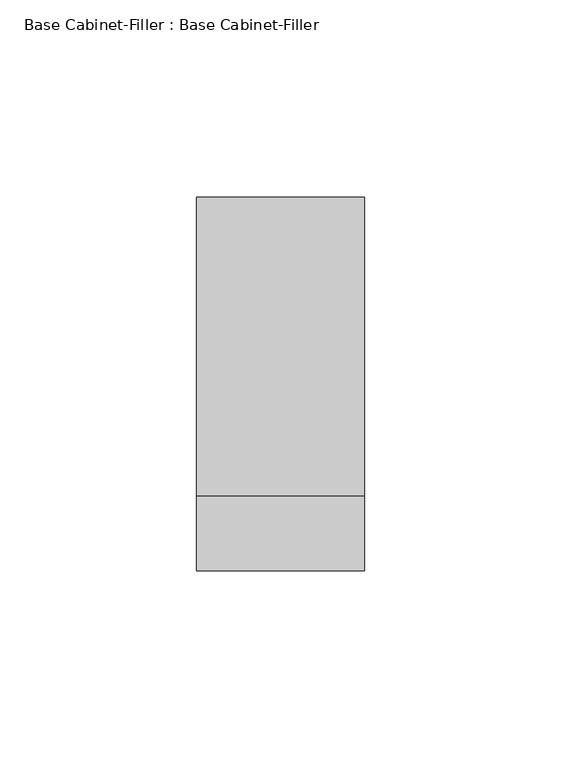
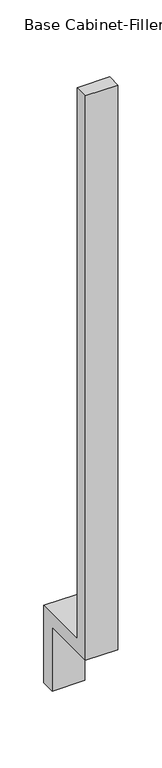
"""IFC4 building model written with IfcOpenShell, lengths in millimetres: furniture geometry, Base Cabinet-Filler : Base Cabinet-Filler."""

from ifc_helpers import new_model, si_unit, frame, origin, place, context, project, spatial, polyline, outline, extrude, source, transform, mapped, element, save


def base_cabinet_filler_base_cabinet_filler_01d9e414(model_context):
    return source(origin(), model_context, "Body", "SweptSolid", [
        extrude(outline(polyline([(-609.6, 88.9), (-609.6, 876.3), (-590.55, 876.3), (-590.55, 107.95), (-514.35, 107.95), (-514.35, 0.0), (-533.4, 0.0), (-533.4, 88.9), (-609.6, 88.9)])), frame((-2.6935451, 0.0, 0.0), z_axis=(1.0, 0.0, 0.0), x_axis=(0.0, 1.0, 0.0)), (0.0, 0.0, 1.0), 42.8625),
    ])


if __name__ == "__main__":
    model = new_model("IFC4")
    model_context = context("Model", 3, world=origin())
    ifc_project = project(units=[si_unit("LENGTHUNIT", "METRE", prefix="MILLI")], contexts=[model_context])
    site = spatial("IfcSite", under=ifc_project)
    building = spatial("IfcBuilding", under=site)
    placement = place(None, origin())
    base_cabinet_filler_base_cabinet_filler_shape = base_cabinet_filler_base_cabinet_filler_01d9e414(model_context)
    element("IfcFurniture", 1, ObjectType="Base Cabinet-Filler : Base Cabinet-Filler", at=placement, inside=building, context=model_context, shape_type="MappedRepresentation", body=[
        mapped(base_cabinet_filler_base_cabinet_filler_shape, transform((0.0, 0.0, 0.0), x_axis=(1.0, 0.0, 0.0), y_axis=(0.0, 1.0, 0.0), z_axis=(0.0, 0.0, 1.0))),
    ])
    save(model, "model.ifc")
